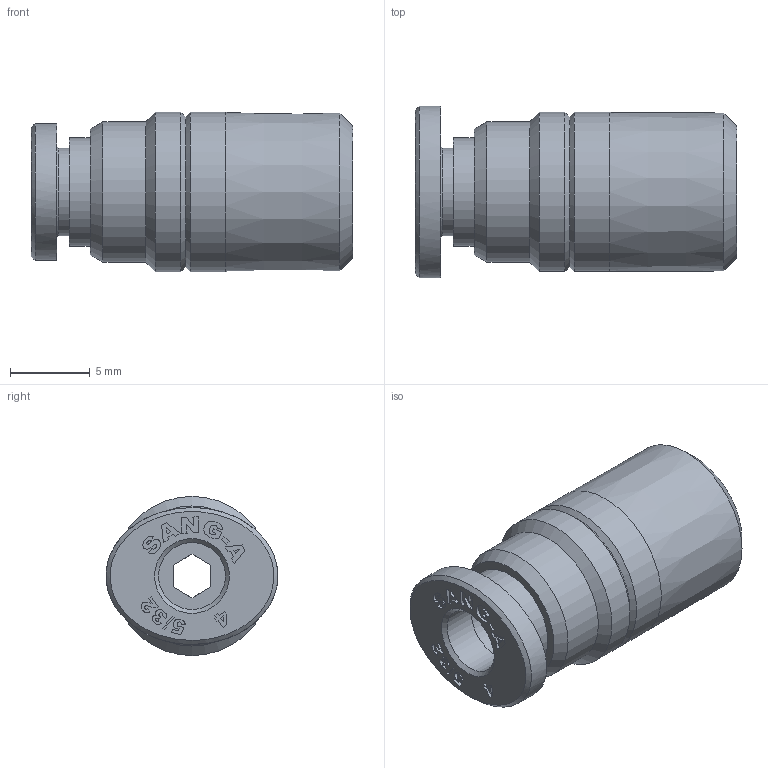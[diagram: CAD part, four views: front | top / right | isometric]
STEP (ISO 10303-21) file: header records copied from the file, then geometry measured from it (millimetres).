
FILE_DESCRIPTION((''),'2;1');
FILE_NAME('C:\Users\user0117\Desktop\김진일\G-FITTING INCH\5-32\PDF\G-FITTING INCH (STEP)\GPOC 5_32-N01U.stp','2020-04-20T14:08:24',('user0117'),(''),'Autodesk Inventor 2013','Autodesk Inventor 2013','');
FILE_SCHEMA(('AUTOMOTIVE_DESIGN { 1 0 10303 214 1 1 1 1 }'));
Length unit declared in the file: millimetre
Products named in the file (5): GPOC 5_32-N01U; GPOC BODY 5_32-N01U(BRASS); G-COLLAR 5-32C; COLLAR G04C; SLEEVE G04
Assembly tree (4 placements, depth 3):
  GPOC 5_32-N01U
    GPOC BODY 5_32-N01U(BRASS)
    G-COLLAR 5-32C
      COLLAR G04C
      SLEEVE G04
Bounding box: 20.2 x 10.8 x 10 mm (x, y, z)
Volume: 1108.7 mm3; surface area: 1121.1 mm2
Topology: 3 solids, 3 shells, 182 faces, 473 edges, 313 vertices
Faces by surface type: plane 104, bspline 59, cone 10, cylinder 9
Full cylindrical faces by diameter (mm): 4.2 x3, 5.5 x1, 6 x1, 6.8 x1, 8.8 x1, 10 x2
Entity records: 6057 total; most frequent: CARTESIAN_POINT 1962, ORIENTED_EDGE 892, DIRECTION 613, EDGE_CURVE 446, VERTEX_POINT 306, VECTOR 297, LINE 297, EDGE_LOOP 224
